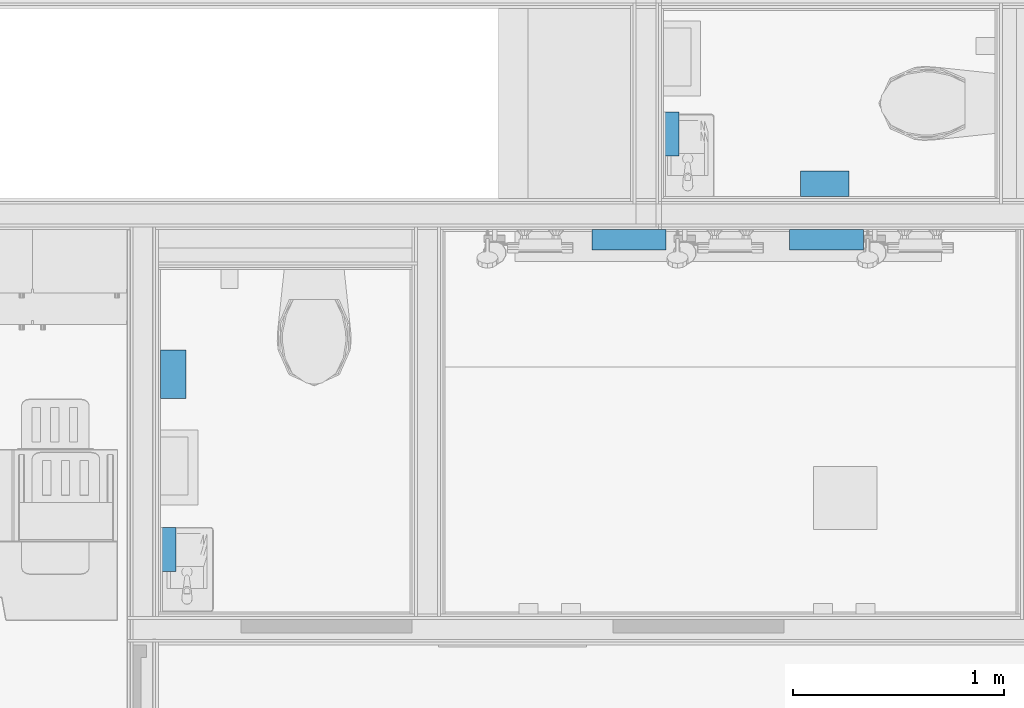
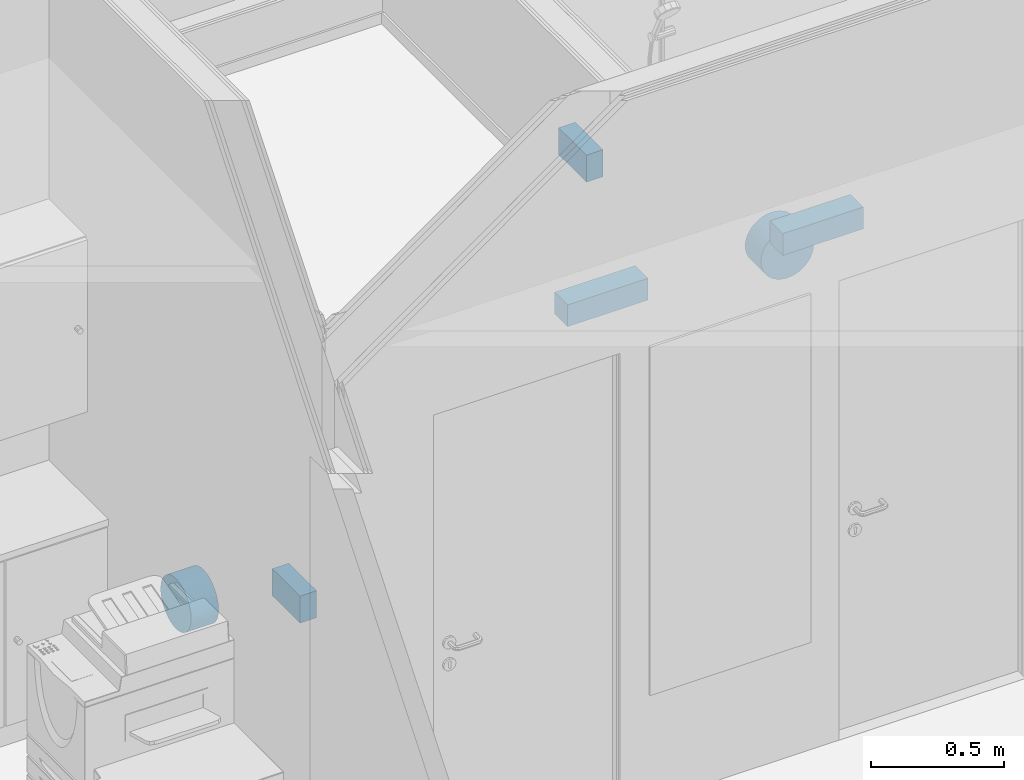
# One storey, part 11 of 153: 6 discrete accessories.
"""IFC2X3 building model written with IfcOpenShell, lengths in millimetres."""

from ifc_helpers import new_model, entity, si_unit, converted_unit, derived_unit, money_unit, direction, frame, origin_with_axes, place, context, subcontext, project, spatial, faceted_brep, source, transform, mapped, type_object, element, save


model = new_model("IFC2X3")

# Units and contexts
model_context = context("Model", 3, precision=0.01, world=origin_with_axes(), true_north=direction((0.0, 1.0)))
body_context = subcontext(model_context, "Body", "Model", "MODEL_VIEW")
ifc_project = project(units=[si_unit("LENGTHUNIT", "METRE", prefix="MILLI"), si_unit("AREAUNIT", "SQUARE_METRE"), si_unit("VOLUMEUNIT", "CUBIC_METRE"), converted_unit("PLANEANGLEUNIT", "DEGREE", entity("IfcPlaneAngleMeasure", 0.0174532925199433), si_unit("PLANEANGLEUNIT", "RADIAN"), dimensions=[0, 0, 0, 0, 0, 0, 0]), money_unit("EUR"), converted_unit("TIMEUNIT", "Year", entity("IfcTimeMeasure", 31557600.0), si_unit("TIMEUNIT", "SECOND"), dimensions=[0, 0, 1, 0, 0, 0, 0]), si_unit("MASSUNIT", "GRAM", prefix="KILO"), si_unit("THERMODYNAMICTEMPERATUREUNIT", "DEGREE_CELSIUS"), si_unit("LUMINOUSINTENSITYUNIT", "LUMEN"), si_unit("ENERGYUNIT", "JOULE", prefix="MEGA"), derived_unit("THERMALCONDUCTANCEUNIT", [(si_unit("POWERUNIT", "WATT"), 1), (si_unit("LENGTHUNIT", "METRE"), -1), (si_unit("THERMODYNAMICTEMPERATUREUNIT", "KELVIN"), -1)]), derived_unit("SPECIFICHEATCAPACITYUNIT", [(si_unit("ENERGYUNIT", "JOULE"), 1), (si_unit("MASSUNIT", "GRAM", prefix="KILO"), -1), (si_unit("THERMODYNAMICTEMPERATUREUNIT", "KELVIN"), -1)]), derived_unit("MASSDENSITYUNIT", [(si_unit("MASSUNIT", "GRAM", prefix="KILO"), 1), (si_unit("VOLUMEUNIT", "CUBIC_METRE"), -1)])], contexts=[model_context])

# Site, building, storey
site_placement = place(None, frame((0.0, 0.0, 8650.0), z_axis=(0.0, 0.0, 1.0), x_axis=(1.0, 0.0, 0.0)))
site = spatial("IfcSite", under=ifc_project, at=site_placement, Name="43301:001:0844", CompositionType="ELEMENT")
building_placement = place(site_placement, origin_with_axes())
building = spatial("IfcBuilding", under=site, at=building_placement, Name="Kuressaare Ametikooli tuulikute mehaanikute õppekorpus", CompositionType="ELEMENT")
storey_placement = place(building_placement, frame((0.0, 0.0, 4100.0), z_axis=(0.0, 0.0, 1.0), x_axis=(1.0, 0.0, 0.0)))
storey = spatial("IfcBuildingStorey", under=building, at=storey_placement, Name="2.korrus", CompositionType="ELEMENT", Elevation=4100.0)

# Discrete accessories
discrete_accessory_type_1 = type_object("IfcDiscreteAccessoryType", Name="Cylinder 27")
shared_shape_1 = source(origin_with_axes(), body_context, "Body", "Brep", [
    faceted_brep([(0.0, -19.96954043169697, -113.2528915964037), (0.0, 0.0, -115.0), (120.0, 0.0, -115.0), (120.0, -19.96954043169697, -113.2528915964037), (0.0, -39.33231648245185, -108.0646513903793), (0.0, -57.49999999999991, -99.59292143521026), (0.0, -73.92057511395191, -88.0951109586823), (0.0, -88.09511095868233, -73.92057511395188), (0.0, -99.59292143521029, -57.49999999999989), (0.0, -108.0646513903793, -39.33231648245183), (0.0, -113.2528915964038, -19.96954043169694), (0.0, -114.9999999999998, 0.0), (0.0, -113.2528915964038, 19.96954043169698), (0.0, -108.0646513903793, 39.33231648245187), (0.0, -99.59292143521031, 57.49999999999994), (0.0, -88.09511095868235, 73.92057511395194), (0.0, -73.92057511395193, 88.09511095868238), (0.0, -57.49999999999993, 99.59292143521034), (0.0, -39.33231648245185, 108.0646513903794), (0.0, -19.96954043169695, 113.2528915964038), (0.0, 0.0, 114.9999999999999), (0.0, 19.969540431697, 113.2528915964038), (0.0, 39.33231648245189, 108.0646513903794), (0.0, 57.49999999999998, 99.59292143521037), (0.0, 73.92057511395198, 88.09511095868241), (0.0, 88.09511095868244, 73.92057511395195), (0.0, 99.5929214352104, 57.49999999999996), (0.0, 108.0646513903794, 39.33231648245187), (0.0, 113.2528915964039, 19.96954043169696), (0.0, 114.9999999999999, 0.0), (0.0, 113.2528915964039, -19.969540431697), (0.0, 108.0646513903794, -39.33231648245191), (0.0, 99.59292143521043, -57.5), (0.0, 88.09511095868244, -73.92057511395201), (0.0, 73.920575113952, -88.09511095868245), (0.0, 57.49999999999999, -99.59292143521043), (0.0, 39.33231648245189, -108.0646513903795), (0.0, 19.96954043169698, -113.2528915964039), (120.0, 19.96954043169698, -113.2528915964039), (120.0, 39.33231648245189, -108.0646513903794), (120.0, 57.49999999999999, -99.59292143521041), (120.0, 73.920575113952, -88.09511095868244), (120.0, 88.09511095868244, -73.920575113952), (120.0, 99.59292143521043, -57.49999999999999), (120.0, 108.0646513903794, -39.3323164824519), (120.0, 113.2528915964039, -19.96954043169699), (120.0, 114.9999999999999, 0.0), (120.0, 113.2528915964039, 19.96954043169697), (120.0, 108.0646513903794, 39.33231648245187), (120.0, 99.5929214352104, 57.49999999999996), (120.0, 88.09511095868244, 73.92057511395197), (120.0, 73.92057511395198, 88.09511095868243), (120.0, 57.49999999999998, 99.59292143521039), (120.0, 39.33231648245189, 108.0646513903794), (120.0, 19.969540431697, 113.2528915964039), (120.0, 0.0, 114.9999999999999), (120.0, -19.96954043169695, 113.2528915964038), (120.0, -39.33231648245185, 108.0646513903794), (120.0, -57.49999999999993, 99.59292143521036), (120.0, -73.92057511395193, 88.0951109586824), (120.0, -88.09511095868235, 73.92057511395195), (120.0, -99.59292143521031, 57.49999999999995), (120.0, -108.0646513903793, 39.33231648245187), (120.0, -113.2528915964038, 19.96954043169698), (120.0, -114.9999999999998, 0.0), (120.0, -113.2528915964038, -19.96954043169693), (120.0, -108.0646513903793, -39.33231648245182), (120.0, -99.59292143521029, -57.49999999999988), (120.0, -88.09511095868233, -73.92057511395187), (120.0, -73.92057511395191, -88.09511095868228), (120.0, -57.49999999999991, -99.59292143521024), (120.0, -39.33231648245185, -108.0646513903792)], [[[0, 1, 2, 3]], [[0, 4, 5, 6, 7, 8, 9, 10, 11, 12, 13, 14, 15, 16, 17, 18, 19, 20, 21, 22, 23, 24, 25, 26, 27, 28, 29, 30, 31, 32, 33, 34, 35, 36, 37, 1]], [[1, 37, 38, 2]], [[3, 2, 38, 39, 40, 41, 42, 43, 44, 45, 46, 47, 48, 49, 50, 51, 52, 53, 54, 55, 56, 57, 58, 59, 60, 61, 62, 63, 64, 65, 66, 67, 68, 69, 70, 71]], [[4, 0, 3, 71]], [[5, 4, 71, 70]], [[6, 5, 70, 69]], [[7, 6, 69, 68]], [[8, 7, 68, 67]], [[9, 8, 67, 66]], [[10, 9, 66, 65]], [[11, 10, 65, 64]], [[12, 11, 64, 63]], [[13, 12, 63, 62]], [[14, 13, 62, 61]], [[15, 14, 61, 60]], [[16, 15, 60, 59]], [[17, 16, 59, 58]], [[18, 17, 58, 57]], [[19, 18, 57, 56]], [[20, 19, 56, 55]], [[21, 20, 55, 54]], [[22, 21, 54, 53]], [[23, 22, 53, 52]], [[24, 23, 52, 51]], [[25, 24, 51, 50]], [[26, 25, 50, 49]], [[27, 26, 49, 48]], [[28, 27, 48, 47]], [[29, 28, 47, 46]], [[30, 29, 46, 45]], [[31, 30, 45, 44]], [[32, 31, 44, 43]], [[33, 32, 43, 42]], [[34, 33, 42, 41]], [[35, 34, 41, 40]], [[36, 35, 40, 39]], [[37, 36, 39, 38]]]),
])
for number, where, z_axis, x_axis in (
    (1, (128994.9912268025, 19755.53245169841, 599.9999999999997), (0.0, 0.0, 1.0), (-0.999999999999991, 1.339727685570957e-07, 0.0)),
    (2, (132018.032441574, 20597.06873619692, 599.9999999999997), (0.0, 0.0, 1.0), (1.339727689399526e-07, 0.999999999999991, 0.0)),
):
    element("IfcDiscreteAccessory", number, at=place(storey_placement, frame(where, z_axis=z_axis, x_axis=x_axis)), inside=storey, type_object=discrete_accessory_type_1, Name="WCP", context=body_context, shape_type="MappedRepresentation", body=[
        mapped(shared_shape_1, transform((0.0, 0.0, 0.0))),
    ])
discrete_accessory_type_2 = type_object("IfcDiscreteAccessoryType", Name="Cube 27")
shared_shape_2 = source(origin_with_axes(), body_context, "Body", "Brep", [
    faceted_brep([(-209.0, 0.0, 0.0), (-209.0, 73.0, 0.0), (0.0, 73.0, 0.0), (0.0, 0.0, 0.0), (-209.0, 0.0, 124.0), (-209.0, 73.0, 124.0), (0.0, 73.0, 124.0), (0.0, 0.0, 124.0)], [[[0, 1, 2, 3]], [[0, 4, 5, 1]], [[1, 5, 6, 2]], [[2, 6, 7, 3]], [[3, 7, 4, 0]], [[7, 6, 5, 4]]]),
])
for number, where, z_axis, x_axis, name in (
    (3, (128874.9926662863, 18822.04700274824, 1076.0), (0.0, 0.0, 1.0), (0.0, -1.0, 0.0), "SD"),
    (4, (131255.1587779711, 20788.06854260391, 1076.0), (0.0, 0.0, 1.0), (0.0, -1.0, 0.0), "SD"),
):
    element("IfcDiscreteAccessory", number, at=place(storey_placement, frame(where, z_axis=z_axis, x_axis=x_axis)), inside=storey, type_object=discrete_accessory_type_2, Name=name, context=body_context, shape_type="MappedRepresentation", body=[
        mapped(shared_shape_2, transform((0.0, 0.0, 0.0))),
    ])
shared_shape_3 = source(origin_with_axes(), body_context, "Body", "Brep", [
    faceted_brep([(-350.0, 0.0, 0.0), (-350.0, 97.0, 0.0), (0.0, 97.0, 0.0), (0.0, 0.0, 0.0), (-350.0, 0.0, 100.0), (-350.0, 97.0, 100.0), (0.0, 97.0, 100.0), (0.0, 0.0, 100.0)], [[[0, 1, 2, 3]], [[0, 4, 5, 1]], [[1, 5, 6, 2]], [[2, 6, 7, 3]], [[3, 7, 4, 0]], [[7, 6, 5, 4]]]),
])
for number, where, z_axis, x_axis, name in (
    (5, (130916.2700594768, 20440.06892395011, 800.9067184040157), (0.0, 0.0, 1.0), (-1.0, 0.0, 0.0), "SR"),
    (6, (131851.786899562, 20440.06892395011, 800.9067184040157), (0.0, 0.0, 1.0), (-1.0, 0.0, 0.0), "SR"),
):
    element("IfcDiscreteAccessory", number, at=place(storey_placement, frame(where, z_axis=z_axis, x_axis=x_axis)), inside=storey, type_object=discrete_accessory_type_2, Name=name, context=body_context, shape_type="MappedRepresentation", body=[
        mapped(shared_shape_3, transform((0.0, 0.0, 0.0))),
    ])

save(model, "model.ifc")
